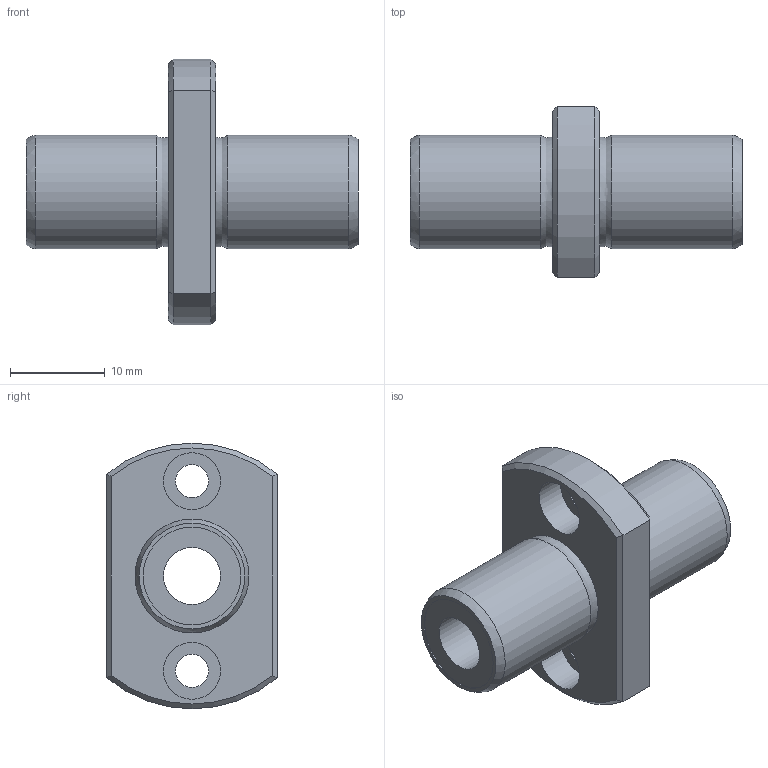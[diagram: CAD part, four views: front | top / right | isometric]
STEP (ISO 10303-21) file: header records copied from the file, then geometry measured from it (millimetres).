
FILE_DESCRIPTION((''),'2;1');
FILE_NAME('D:\製品 (図面)\カタログ用3D\リニアベアリング関連\STEP形式\LFDTC\LFDTC6.stp','2010-06-04T08:38:45',('Tsuchiya'),(''),'Autodesk Inventor 10','Autodesk Inventor 10','');
FILE_SCHEMA(('AUTOMOTIVE_DESIGN { 1 0 10303 214 1 1 1 1 }'));
Length unit declared in the file: millimetre
Products named in the file (1): LFDTC6
Bounding box: 35 x 18 x 28 mm (x, y, z)
Volume: 4454.7 mm3; surface area: 3143.4 mm2
Topology: 1 solids, 1 shells, 33 faces, 63 edges, 38 vertices
Faces by surface type: plane 14, cylinder 11, cone 4, bspline 4
Full cylindrical faces by diameter (mm): 3.5 x2, 6 x3, 10.3 x2, 12 x2
Entity records: 969 total; most frequent: CARTESIAN_POINT 322, DIRECTION 132, ORIENTED_EDGE 100, AXIS2_PLACEMENT_3D 60, EDGE_LOOP 58, EDGE_CURVE 50, VERTEX_POINT 38, FACE_OUTER_BOUND 33
